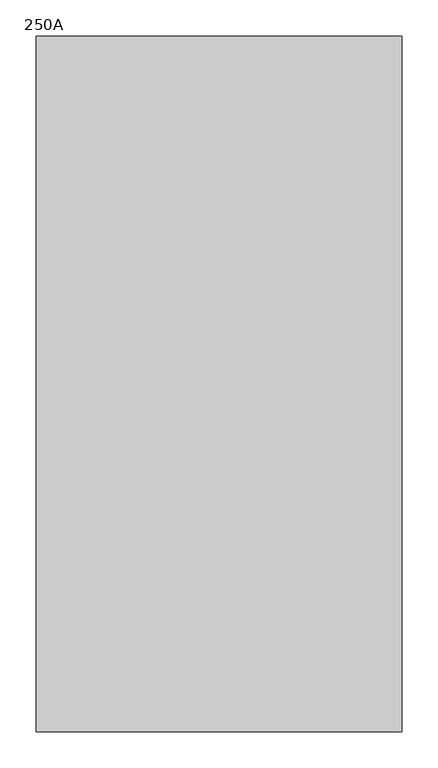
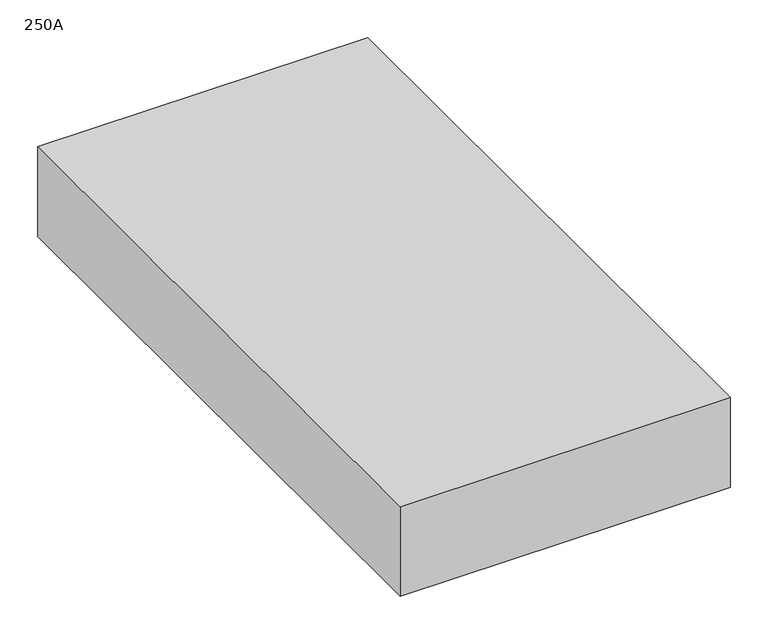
"""IFC4 building model written with IfcOpenShell, lengths in millimetres: proxy geometry, 480V MLO Lighting and Appliance Panelboards - Surface : 250A."""

from ifc_helpers import new_model, si_unit, origin, origin_with_axes, place, context, project, spatial, polyline, outline, extrude, source, transform, mapped, element, save


def proxy_250a_6d932d76(model_context):
    return source(origin(), model_context, "Body", "SweptSolid", [
        extrude(outline(polyline([(254.0, 856.4725953), (254.0, -108.7274047), (-254.0, -108.7274047), (-254.0, 856.4725953), (254.0, 856.4725953)])), origin_with_axes(), (0.0, 0.0, 1.0), 146.05),
    ])


if __name__ == "__main__":
    model = new_model("IFC4")
    model_context = context("Model", 3, world=origin())
    ifc_project = project(units=[si_unit("LENGTHUNIT", "METRE", prefix="MILLI")], contexts=[model_context])
    site = spatial("IfcSite", under=ifc_project)
    building = spatial("IfcBuilding", under=site)
    placement = place(None, origin())
    proxy_250a_shape = proxy_250a_6d932d76(model_context)
    element("IfcBuildingElementProxy", 1, Name="480V MLO Lighting and Appliance Panelboards - Surface : 250A", ObjectType="480V MLO Lighting and Appliance Panelboards - Surface : 250A", at=placement, inside=building, context=model_context, shape_type="MappedRepresentation", body=[
        mapped(proxy_250a_shape, transform((0.0, 0.0, 0.0), x_axis=(1.0, 0.0, 0.0), y_axis=(0.0, 1.0, 0.0), z_axis=(0.0, 0.0, 1.0))),
    ])
    save(model, "model.ifc")
